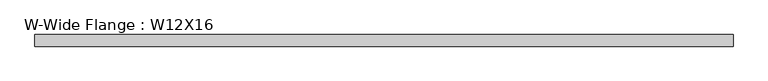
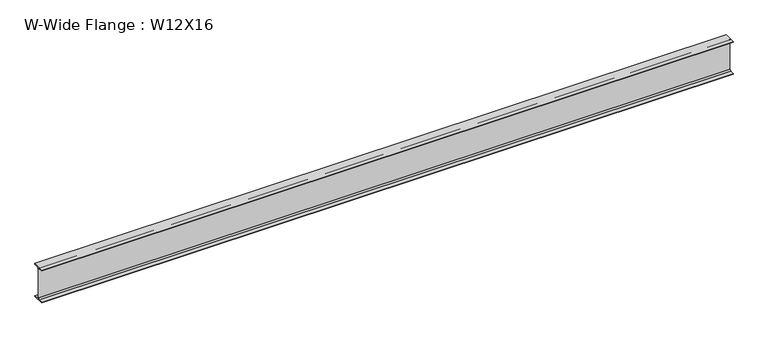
"""IFC4 building model written with IfcOpenShell, lengths in millimetres: beam geometry, W-Wide Flange : W12X16."""

import ifcopenshell
import ifcopenshell.guid

model = None  # the IFC model being written
_history = None  # IfcOwnerHistory: only IFC2X3 demands one
_inside = {}  # id of a spatial element -> (the spatial element, [elements in it])
_under = {}  # id of a project, library or spatial element -> (it, [spatial elements below it])
_declared = {}  # id of a project -> (the project, [libraries it declares])
_typed = {}  # id of a type object -> (the type object, [elements of that type])
_made_of = {}  # id of a material, layer set ... -> (it, [elements and type objects made of it])


def new_model(schema):
    """Start an empty IFC model of exactly this schema.

    Asked for "IFC4X3", IfcOpenShell would pick the latest addendum, in which some entities
    have other attributes; the version numbers below select the first issue.
    IFC2X3 requires an IfcOwnerHistory on every rooted entity: one is made here for all.
    """
    global model, _history
    if schema == "IFC4X3":
        model = ifcopenshell.file(schema_version=(4, 3, 0, 0))
    else:
        model = ifcopenshell.file(schema=schema)
    _inside.clear()
    _under.clear()
    _declared.clear()
    _typed.clear()
    _made_of.clear()
    _history = None
    if model.schema == "IFC2X3":
        org = make("IfcOrganization", Name="unknown")
        user = make(
            "IfcPersonAndOrganization",
            ThePerson=make("IfcPerson", FamilyName="unknown"),
            TheOrganization=org,
        )
        app = make(
            "IfcApplication",
            ApplicationDeveloper=org,
            Version="unknown",
            ApplicationFullName="unknown",
            ApplicationIdentifier="unknown",
        )
        _history = make(
            "IfcOwnerHistory",
            OwningUser=user,
            OwningApplication=app,
            ChangeAction="ADDED",
            CreationDate=0,
        )
    return model


def make(cls, **values):
    """One entity of the class cls with the attributes given. An attribute that is None is left unset."""
    return model.create_entity(
        cls, **{name: value for name, value in values.items() if value is not None}
    )


def rooted(cls, **values):
    """An entity with a GlobalId (a new one), such as an element, a storey or a relation."""
    return make(cls, GlobalId=ifcopenshell.guid.new(), OwnerHistory=_history, **values)


def si_unit(unit_type, name, prefix=None):
    """IfcSIUnit, for example si_unit("LENGTHUNIT", "METRE", prefix="MILLI")."""
    return make("IfcSIUnit", UnitType=unit_type, Prefix=prefix, Name=name)


def assignment(units):
    """IfcUnitAssignment: the units of a project."""
    return None if units is None else make("IfcUnitAssignment", Units=units)


def point(xyz):
    """IfcCartesianPoint."""
    return None if xyz is None else make("IfcCartesianPoint", Coordinates=xyz)


def direction(xyz):
    """IfcDirection."""
    return None if xyz is None else make("IfcDirection", DirectionRatios=xyz)


def frame(location, z_axis=None, x_axis=None):
    """IfcAxis2Placement3D, a coordinate frame: its origin and axes. An axis left out is left unset."""
    return make(
        "IfcAxis2Placement3D",
        Location=point(location),
        Axis=direction(z_axis),
        RefDirection=direction(x_axis),
    )


def frame_2d(location, x_axis=None):
    """IfcAxis2Placement2D, a coordinate frame in the plane: its origin and x axis."""
    return make(
        "IfcAxis2Placement2D", Location=point(location), RefDirection=direction(x_axis)
    )


def origin():
    """The frame at (0, 0, 0) with its axes left unset."""
    return frame((0.0, 0.0, 0.0))


def place(relative_to, where):
    """IfcLocalPlacement: puts the frame where relative to a parent placement (None: the world)."""
    return make(
        "IfcLocalPlacement", PlacementRelTo=relative_to, RelativePlacement=where
    )


def context(
    kind, dimensions, precision=None, world=None, true_north=None, identifier=None
):
    """IfcGeometricRepresentationContext, for example the 3D "Model" context."""
    return make(
        "IfcGeometricRepresentationContext",
        ContextIdentifier=identifier,
        ContextType=kind,
        CoordinateSpaceDimension=dimensions,
        Precision=precision,
        WorldCoordinateSystem=world,
        TrueNorth=true_north,
    )


def project(units=None, contexts=None):
    """IfcProject with its units and contexts."""
    return rooted(
        "IfcProject",
        Name="project",
        RepresentationContexts=contexts,
        UnitsInContext=assignment(units),
    )


def spatial(cls, under=None, at=None, **own):
    """A site, building, storey or space (cls), placed at a placement, below another one or the project."""
    s = rooted(cls, ObjectPlacement=at, **own)
    if under is not None:
        _under.setdefault(under.id(), (under, []))[1].append(s)
    return s


def polyline(points):
    """IfcPolyline through the points."""
    return make("IfcPolyline", Points=[point(p) for p in points])


def circle_curve(where, radius):
    """IfcCircle in the frame where."""
    return make("IfcCircle", Position=where, Radius=radius)


def trimmed(basis, trim1, trim2, sense, master):
    """IfcTrimmedCurve: the piece of a basis curve between two trims."""
    return make(
        "IfcTrimmedCurve",
        BasisCurve=basis,
        Trim1=trim1,
        Trim2=trim2,
        SenseAgreement=sense,
        MasterRepresentation=master,
    )


def segment(curve, same_sense, transition):
    """IfcCompositeCurveSegment."""
    return make(
        "IfcCompositeCurveSegment",
        Transition=transition,
        SameSense=same_sense,
        ParentCurve=curve,
    )


def composite_curve(segments, self_intersect=None):
    """IfcCompositeCurve: segments joined end to end."""
    return make("IfcCompositeCurve", Segments=segments, SelfIntersect=self_intersect)


def outline(outer, holes=None, kind="AREA"):
    """IfcArbitraryClosedProfileDef: a profile drawn as a closed curve; with holes, ...WithVoids."""
    if holes is None:
        return make("IfcArbitraryClosedProfileDef", ProfileType=kind, OuterCurve=outer)
    return make(
        "IfcArbitraryProfileDefWithVoids",
        ProfileType=kind,
        OuterCurve=outer,
        InnerCurves=holes,
    )


def extrude(swept, where, along, depth):
    """IfcExtrudedAreaSolid: the profile swept, set in the frame where, extruded along a direction by depth."""
    return make(
        "IfcExtrudedAreaSolid",
        SweptArea=swept,
        Position=where,
        ExtrudedDirection=direction(along),
        Depth=depth,
    )


def shape(context_of_items, identifier, shape_type, items):
    """IfcShapeRepresentation: the items that make up one representation, for example the "Body"."""
    return make(
        "IfcShapeRepresentation",
        ContextOfItems=context_of_items,
        RepresentationIdentifier=identifier,
        RepresentationType=shape_type,
        Items=items,
    )


def source(mapping_origin, context_of_items, identifier, shape_type, items):
    """IfcRepresentationMap: a shape defined once, which mapped items show again and again."""
    return make(
        "IfcRepresentationMap",
        MappingOrigin=mapping_origin,
        MappedRepresentation=shape(context_of_items, identifier, shape_type, items),
    )


def transform(
    local_origin,
    x_axis=None,
    y_axis=None,
    z_axis=None,
    scale=None,
    scale2=None,
    scale3=None,
    uniform=True,
):
    """IfcCartesianTransformationOperator3D, or its non-uniform kind. x_axis, y_axis, z_axis: its Axis1, 2, 3."""
    if uniform:
        return make(
            "IfcCartesianTransformationOperator3D",
            Axis1=direction(x_axis),
            Axis2=direction(y_axis),
            LocalOrigin=point(local_origin),
            Scale=scale,
            Axis3=direction(z_axis),
        )
    return make(
        "IfcCartesianTransformationOperator3DnonUniform",
        Axis1=direction(x_axis),
        Axis2=direction(y_axis),
        LocalOrigin=point(local_origin),
        Scale=scale,
        Axis3=direction(z_axis),
        Scale2=scale2,
        Scale3=scale3,
    )


def mapped(mapping_source, mapping_target):
    """IfcMappedItem: shows the shape of a source again, moved by a transform."""
    return make(
        "IfcMappedItem", MappingSource=mapping_source, MappingTarget=mapping_target
    )


def made_of(thing, what):
    """Note that an element or type object is made of a material, layer set ...; save() writes the relation."""
    if what is not None:
        _made_of.setdefault(what.id(), (what, []))[1].append(thing)
    return thing


def element(
    cls,
    number,
    at=None,
    inside=None,
    cuts=None,
    type_object=None,
    material=None,
    context=None,
    identifier="Body",
    shape_type=None,
    held_by="IfcProductDefinitionShape",
    body=None,
    shapes=None,
    **own,
):
    """One element of the class cls, such as IfcWall. Its Tag is "e" and its number.

    at: its placement. inside: the storey or other place that contains it. cuts: it is an
    opening in that element (IfcRelVoidsElement). A single representation is given by context,
    identifier, shape_type and body (its items); several are given by shapes. held_by: the class
    of the entity that holds the representations. save() writes the other relations.
    """
    e = rooted(cls, Tag="e%d" % number, ObjectPlacement=at, **own)
    if body is not None:
        shapes = [shape(context, identifier, shape_type, body)]
    if shapes is not None:
        e.Representation = make(held_by, Representations=shapes)
    if inside is not None:
        _inside.setdefault(inside.id(), (inside, []))[1].append(e)
    if cuts is not None:
        rooted(
            "IfcRelVoidsElement", RelatingBuildingElement=cuts, RelatedOpeningElement=e
        )
    if type_object is not None:
        _typed.setdefault(type_object.id(), (type_object, []))[1].append(e)
    return made_of(e, material)


def aggregate(whole, parts):
    """IfcRelAggregates: a whole, such as a stair, and the parts it consists of."""
    return rooted("IfcRelAggregates", RelatingObject=whole, RelatedObjects=parts)


def save(model, path):
    """Write the relations noted so far, then the file.

    IfcRelAggregates (storeys below a building ...), IfcRelContainedInSpatialStructure (elements
    in a storey), IfcRelDefinesByType, IfcRelAssociatesMaterial and IfcRelDeclares: one each for
    every whole, place, type object, material and project.
    """
    for whole, parts in _under.values():
        aggregate(whole, parts)
    for where, things in _inside.values():
        rooted(
            "IfcRelContainedInSpatialStructure",
            RelatedElements=things,
            RelatingStructure=where,
        )
    for kind, things in _typed.values():
        rooted("IfcRelDefinesByType", RelatedObjects=things, RelatingType=kind)
    for what, things in _made_of.values():
        rooted("IfcRelAssociatesMaterial", RelatedObjects=things, RelatingMaterial=what)
    for by, libraries in _declared.values():
        rooted("IfcRelDeclares", RelatingContext=by, RelatedDefinitions=libraries)
    model.write(path)


def w_wide_flange_w12x16_acd021f3(model_context):
    return source(origin(), model_context, "Body", "SweptSolid", [
        extrude(outline(composite_curve([segment(polyline([(50.673, -145.669), (50.673, -152.4), (-50.673, -152.4), (-50.673, -145.669), (-16.7005, -145.669)]), True, "CONTINUOUS"), segment(trimmed(circle_curve(frame_2d((-16.7005, -131.7625)), 13.9065), [point((-16.7005, -145.669))], [point((-2.794, -131.7625))], True, "CARTESIAN"), True, "CONTINUOUS"), segment(polyline([(-2.794, -131.7625), (-2.794, 131.7625)]), True, "CONTINUOUS"), segment(trimmed(circle_curve(frame_2d((-16.7005, 131.7625)), 13.9065), [point((-2.794, 131.7625))], [point((-16.7005, 145.669))], True, "CARTESIAN"), True, "CONTINUOUS"), segment(polyline([(-16.7005, 145.669), (-50.673, 145.669), (-50.673, 152.4), (50.673, 152.4), (50.673, 145.669), (16.7005, 145.669)]), True, "CONTINUOUS"), segment(trimmed(circle_curve(frame_2d((16.7005, 131.7625)), 13.9065), [point((16.7005, 145.669))], [point((2.794, 131.7625))], True, "CARTESIAN"), True, "CONTINUOUS"), segment(polyline([(2.794, 131.7625), (2.794, -131.7625)]), True, "CONTINUOUS"), segment(trimmed(circle_curve(frame_2d((16.7005, -131.7625)), 13.9065), [point((2.794, -131.7625))], [point((16.7005, -145.669))], True, "CARTESIAN"), True, "CONTINUOUS"), segment(polyline([(16.7005, -145.669), (50.673, -145.669)]), True, "CONTINUOUS")], self_intersect=False)), frame((-2995.0171875, 0.0, 0.0), z_axis=(1.0, 0.0, 0.0), x_axis=(0.0, 1.0, 0.0)), (0.0, 0.0, 1.0), 6072.584375),
    ])


if __name__ == "__main__":
    model = new_model("IFC4")
    model_context = context("Model", 3, world=origin())
    ifc_project = project(units=[si_unit("LENGTHUNIT", "METRE", prefix="MILLI")], contexts=[model_context])
    site = spatial("IfcSite", under=ifc_project)
    building = spatial("IfcBuilding", under=site)
    placement = place(None, origin())
    w_wide_flange_w12x16_shape = w_wide_flange_w12x16_acd021f3(model_context)
    element("IfcBeam", 1, ObjectType="W-Wide Flange : W12X16", at=placement, inside=building, context=model_context, shape_type="MappedRepresentation", body=[
        mapped(w_wide_flange_w12x16_shape, transform((0.0, 0.0, 0.0), x_axis=(1.0, 0.0, 0.0), y_axis=(0.0, 1.0, 0.0), z_axis=(0.0, 0.0, 1.0))),
    ])
    save(model, "model.ifc")
